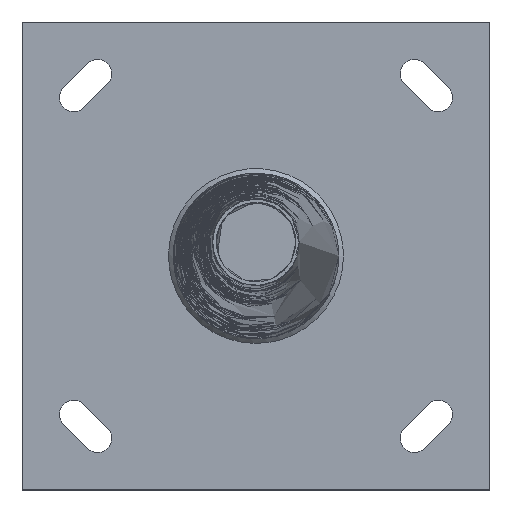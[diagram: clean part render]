
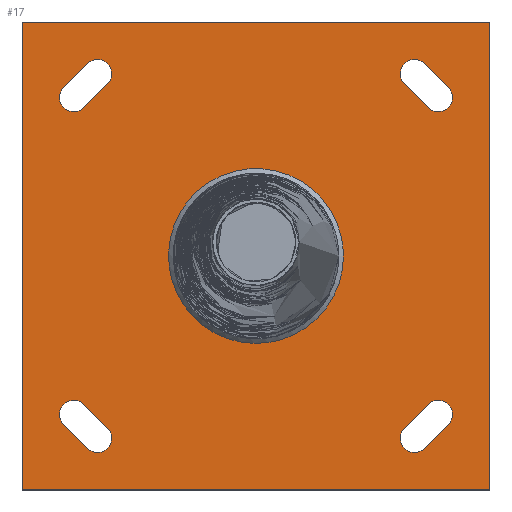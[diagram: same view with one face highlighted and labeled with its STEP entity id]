
A CAD part, top view. The second image highlights one B-rep face of the part: STEP entity #17.
In plain terms, the highlighted planar face has unit normal (0, 0, 1).
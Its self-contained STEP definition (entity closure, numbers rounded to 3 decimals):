
#17 = ADVANCED_FACE('',(#18,#57,#91,#127,#163,#199),#235,.T.);
#18 = FACE_BOUND('',#19,.T.);
#19 = EDGE_LOOP('',(#20));
#20 = ORIENTED_EDGE('',*,*,#21,.T.);
#21 = EDGE_CURVE('',#22,#22,#24,.T.);
#22 = VERTEX_POINT('',#23);
#23 = CARTESIAN_POINT('',(76.975,0.,5.));
#24 = B_SPLINE_CURVE_WITH_KNOTS('',11,(#25,#26,#27,#28,#29,#30,#31,#32,
    #33,#34,#35,#36,#37,#38,#39,#40,#41,#42,#43,#44,#45,#46,#47,#48,#49,
    #50,#51,#52,#53,#54,#55,#56),.UNSPECIFIED.,.T.,.F.,(12,10,10,12),(
    0.,114.629,229.258,458.515),
  .UNSPECIFIED.);
#25 = CARTESIAN_POINT('',(76.975,0.,5.));
#26 = CARTESIAN_POINT('',(76.975,-10.992,5.));
#27 = CARTESIAN_POINT('',(75.248,-21.984,5.)
  );
#28 = CARTESIAN_POINT('',(71.795,-32.674,5.
    ));
#29 = CARTESIAN_POINT('',(66.674,-42.766,5.)
  );
#30 = CARTESIAN_POINT('',(60.005,-51.956,5.)
  );
#31 = CARTESIAN_POINT('',(51.96,-60.008,5.
    ));
#32 = CARTESIAN_POINT('',(42.762,-66.673,5.
    ));
#33 = CARTESIAN_POINT('',(32.675,-71.796,5.
    ));
#34 = CARTESIAN_POINT('',(21.984,-75.248,5.
    ));
#35 = CARTESIAN_POINT('',(10.992,-76.975,5.));
#36 = CARTESIAN_POINT('',(-10.992,-76.975,5.));
#37 = CARTESIAN_POINT('',(-21.984,-75.248,5.
    ));
#38 = CARTESIAN_POINT('',(-32.675,-71.795,5.
    ));
#39 = CARTESIAN_POINT('',(-42.763,-66.674,5.
    ));
#40 = CARTESIAN_POINT('',(-51.96,-60.005,5.
    ));
#41 = CARTESIAN_POINT('',(-60.005,-51.96,5.
    ));
#42 = CARTESIAN_POINT('',(-66.675,-42.763,5.
    ));
#43 = CARTESIAN_POINT('',(-71.795,-32.675,5.
    ));
#44 = CARTESIAN_POINT('',(-75.248,-21.984,5.)
  );
#45 = CARTESIAN_POINT('',(-76.975,-10.992,5.));
#46 = CARTESIAN_POINT('',(-76.975,21.984,5.));
#47 = CARTESIAN_POINT('',(-70.068,43.968,5.));
#48 = CARTESIAN_POINT('',(-56.255,63.542,5.
    ));
#49 = CARTESIAN_POINT('',(-36.483,78.292,5.
    ));
#50 = CARTESIAN_POINT('',(-12.643,86.237,5.
    ));
#51 = CARTESIAN_POINT('',(12.644,86.237,5.
    ));
#52 = CARTESIAN_POINT('',(36.483,78.292,5.)
  );
#53 = CARTESIAN_POINT('',(56.255,63.542,5.
    ));
#54 = CARTESIAN_POINT('',(70.069,43.967,5.));
#55 = CARTESIAN_POINT('',(76.975,21.984,5.));
#56 = CARTESIAN_POINT('',(76.975,0.,5.));
#57 = FACE_BOUND('',#58,.T.);
#58 = EDGE_LOOP('',(#59,#69,#77,#85));
#59 = ORIENTED_EDGE('',*,*,#60,.T.);
#60 = EDGE_CURVE('',#61,#63,#65,.T.);
#61 = VERTEX_POINT('',#62);
#62 = CARTESIAN_POINT('',(-206.,206.,5.));
#63 = VERTEX_POINT('',#64);
#64 = CARTESIAN_POINT('',(-206.,-206.,5.));
#65 = LINE('',#66,#67);
#66 = CARTESIAN_POINT('',(-206.,206.,5.));
#67 = VECTOR('',#68,1.);
#68 = DIRECTION('',(0.,-1.,0.));
#69 = ORIENTED_EDGE('',*,*,#70,.T.);
#70 = EDGE_CURVE('',#63,#71,#73,.T.);
#71 = VERTEX_POINT('',#72);
#72 = CARTESIAN_POINT('',(206.,-206.,5.));
#73 = LINE('',#74,#75);
#74 = CARTESIAN_POINT('',(-206.,-206.,5.));
#75 = VECTOR('',#76,1.);
#76 = DIRECTION('',(1.,0.,0.));
#77 = ORIENTED_EDGE('',*,*,#78,.T.);
#78 = EDGE_CURVE('',#71,#79,#81,.T.);
#79 = VERTEX_POINT('',#80);
#80 = CARTESIAN_POINT('',(206.,206.,5.));
#81 = LINE('',#82,#83);
#82 = CARTESIAN_POINT('',(206.,-206.,5.));
#83 = VECTOR('',#84,1.);
#84 = DIRECTION('',(0.,1.,0.));
#85 = ORIENTED_EDGE('',*,*,#86,.T.);
#86 = EDGE_CURVE('',#79,#61,#87,.T.);
#87 = LINE('',#88,#89);
#88 = CARTESIAN_POINT('',(206.,206.,5.));
#89 = VECTOR('',#90,1.);
#90 = DIRECTION('',(-1.,0.,0.));
#91 = FACE_BOUND('',#92,.T.);
#92 = EDGE_LOOP('',(#93,#104,#112,#121));
#93 = ORIENTED_EDGE('',*,*,#94,.F.);
#94 = EDGE_CURVE('',#95,#97,#99,.T.);
#95 = VERTEX_POINT('',#96);
#96 = CARTESIAN_POINT('',(-151.768,-130.555,5.));
#97 = VERTEX_POINT('',#98);
#98 = CARTESIAN_POINT('',(-169.445,-148.232,5.));
#99 = CIRCLE('',#100,12.5);
#100 = AXIS2_PLACEMENT_3D('',#101,#102,#103);
#101 = CARTESIAN_POINT('',(-160.607,-139.393,5.));
#102 = DIRECTION('',(0.,-0.,1.));
#103 = DIRECTION('',(0.,1.,0.));
#104 = ORIENTED_EDGE('',*,*,#105,.T.);
#105 = EDGE_CURVE('',#95,#106,#108,.T.);
#106 = VERTEX_POINT('',#107);
#107 = CARTESIAN_POINT('',(-130.555,-151.768,5.));
#108 = LINE('',#109,#110);
#109 = CARTESIAN_POINT('',(-151.768,-130.555,5.));
#110 = VECTOR('',#111,1.);
#111 = DIRECTION('',(0.707,-0.707,0.));
#112 = ORIENTED_EDGE('',*,*,#113,.F.);
#113 = EDGE_CURVE('',#114,#106,#116,.T.);
#114 = VERTEX_POINT('',#115);
#115 = CARTESIAN_POINT('',(-148.232,-169.445,5.));
#116 = CIRCLE('',#117,12.5);
#117 = AXIS2_PLACEMENT_3D('',#118,#119,#120);
#118 = CARTESIAN_POINT('',(-139.393,-160.607,5.));
#119 = DIRECTION('',(0.,-0.,1.));
#120 = DIRECTION('',(0.,1.,0.));
#121 = ORIENTED_EDGE('',*,*,#122,.F.);
#122 = EDGE_CURVE('',#97,#114,#123,.T.);
#123 = LINE('',#124,#125);
#124 = CARTESIAN_POINT('',(-169.445,-148.232,5.));
#125 = VECTOR('',#126,1.);
#126 = DIRECTION('',(0.707,-0.707,0.));
#127 = FACE_BOUND('',#128,.T.);
#128 = EDGE_LOOP('',(#129,#140,#148,#157));
#129 = ORIENTED_EDGE('',*,*,#130,.F.);
#130 = EDGE_CURVE('',#131,#133,#135,.T.);
#131 = VERTEX_POINT('',#132);
#132 = CARTESIAN_POINT('',(130.555,-151.768,5.));
#133 = VERTEX_POINT('',#134);
#134 = CARTESIAN_POINT('',(148.232,-169.445,5.));
#135 = CIRCLE('',#136,12.5);
#136 = AXIS2_PLACEMENT_3D('',#137,#138,#139);
#137 = CARTESIAN_POINT('',(139.393,-160.607,5.));
#138 = DIRECTION('',(0.,0.,1.));
#139 = DIRECTION('',(-1.,0.,0.));
#140 = ORIENTED_EDGE('',*,*,#141,.T.);
#141 = EDGE_CURVE('',#131,#142,#144,.T.);
#142 = VERTEX_POINT('',#143);
#143 = CARTESIAN_POINT('',(151.768,-130.555,5.));
#144 = LINE('',#145,#146);
#145 = CARTESIAN_POINT('',(130.555,-151.768,5.));
#146 = VECTOR('',#147,1.);
#147 = DIRECTION('',(0.707,0.707,0.));
#148 = ORIENTED_EDGE('',*,*,#149,.F.);
#149 = EDGE_CURVE('',#150,#142,#152,.T.);
#150 = VERTEX_POINT('',#151);
#151 = CARTESIAN_POINT('',(169.445,-148.232,5.));
#152 = CIRCLE('',#153,12.5);
#153 = AXIS2_PLACEMENT_3D('',#154,#155,#156);
#154 = CARTESIAN_POINT('',(160.607,-139.393,5.));
#155 = DIRECTION('',(0.,0.,1.));
#156 = DIRECTION('',(-1.,0.,0.));
#157 = ORIENTED_EDGE('',*,*,#158,.F.);
#158 = EDGE_CURVE('',#133,#150,#159,.T.);
#159 = LINE('',#160,#161);
#160 = CARTESIAN_POINT('',(148.232,-169.445,5.));
#161 = VECTOR('',#162,1.);
#162 = DIRECTION('',(0.707,0.707,0.));
#163 = FACE_BOUND('',#164,.T.);
#164 = EDGE_LOOP('',(#165,#176,#184,#193));
#165 = ORIENTED_EDGE('',*,*,#166,.F.);
#166 = EDGE_CURVE('',#167,#169,#171,.T.);
#167 = VERTEX_POINT('',#168);
#168 = CARTESIAN_POINT('',(-130.555,151.768,5.));
#169 = VERTEX_POINT('',#170);
#170 = CARTESIAN_POINT('',(-148.232,169.445,5.));
#171 = CIRCLE('',#172,12.5);
#172 = AXIS2_PLACEMENT_3D('',#173,#174,#175);
#173 = CARTESIAN_POINT('',(-139.393,160.607,5.));
#174 = DIRECTION('',(0.,0.,1.));
#175 = DIRECTION('',(1.,0.,0.));
#176 = ORIENTED_EDGE('',*,*,#177,.T.);
#177 = EDGE_CURVE('',#167,#178,#180,.T.);
#178 = VERTEX_POINT('',#179);
#179 = CARTESIAN_POINT('',(-151.768,130.555,5.));
#180 = LINE('',#181,#182);
#181 = CARTESIAN_POINT('',(-130.555,151.768,5.));
#182 = VECTOR('',#183,1.);
#183 = DIRECTION('',(-0.707,-0.707,0.));
#184 = ORIENTED_EDGE('',*,*,#185,.F.);
#185 = EDGE_CURVE('',#186,#178,#188,.T.);
#186 = VERTEX_POINT('',#187);
#187 = CARTESIAN_POINT('',(-169.445,148.232,5.));
#188 = CIRCLE('',#189,12.5);
#189 = AXIS2_PLACEMENT_3D('',#190,#191,#192);
#190 = CARTESIAN_POINT('',(-160.607,139.393,5.));
#191 = DIRECTION('',(0.,0.,1.));
#192 = DIRECTION('',(1.,0.,0.));
#193 = ORIENTED_EDGE('',*,*,#194,.F.);
#194 = EDGE_CURVE('',#169,#186,#195,.T.);
#195 = LINE('',#196,#197);
#196 = CARTESIAN_POINT('',(-148.232,169.445,5.));
#197 = VECTOR('',#198,1.);
#198 = DIRECTION('',(-0.707,-0.707,0.));
#199 = FACE_BOUND('',#200,.T.);
#200 = EDGE_LOOP('',(#201,#212,#220,#229));
#201 = ORIENTED_EDGE('',*,*,#202,.F.);
#202 = EDGE_CURVE('',#203,#205,#207,.T.);
#203 = VERTEX_POINT('',#204);
#204 = CARTESIAN_POINT('',(151.768,130.555,5.));
#205 = VERTEX_POINT('',#206);
#206 = CARTESIAN_POINT('',(169.445,148.232,5.));
#207 = CIRCLE('',#208,12.5);
#208 = AXIS2_PLACEMENT_3D('',#209,#210,#211);
#209 = CARTESIAN_POINT('',(160.607,139.393,5.));
#210 = DIRECTION('',(0.,0.,1.));
#211 = DIRECTION('',(0.,-1.,0.));
#212 = ORIENTED_EDGE('',*,*,#213,.T.);
#213 = EDGE_CURVE('',#203,#214,#216,.T.);
#214 = VERTEX_POINT('',#215);
#215 = CARTESIAN_POINT('',(130.555,151.768,5.));
#216 = LINE('',#217,#218);
#217 = CARTESIAN_POINT('',(151.768,130.555,5.));
#218 = VECTOR('',#219,1.);
#219 = DIRECTION('',(-0.707,0.707,0.));
#220 = ORIENTED_EDGE('',*,*,#221,.F.);
#221 = EDGE_CURVE('',#222,#214,#224,.T.);
#222 = VERTEX_POINT('',#223);
#223 = CARTESIAN_POINT('',(148.232,169.445,5.));
#224 = CIRCLE('',#225,12.5);
#225 = AXIS2_PLACEMENT_3D('',#226,#227,#228);
#226 = CARTESIAN_POINT('',(139.393,160.607,5.));
#227 = DIRECTION('',(0.,0.,1.));
#228 = DIRECTION('',(0.,-1.,0.));
#229 = ORIENTED_EDGE('',*,*,#230,.F.);
#230 = EDGE_CURVE('',#205,#222,#231,.T.);
#231 = LINE('',#232,#233);
#232 = CARTESIAN_POINT('',(169.445,148.232,5.));
#233 = VECTOR('',#234,1.);
#234 = DIRECTION('',(-0.707,0.707,0.));
#235 = PLANE('',#236);
#236 = AXIS2_PLACEMENT_3D('',#237,#238,#239);
#237 = CARTESIAN_POINT('',(0.,0.,5.));
#238 = DIRECTION('',(0.,0.,1.));
#239 = DIRECTION('',(1.,0.,0.));
